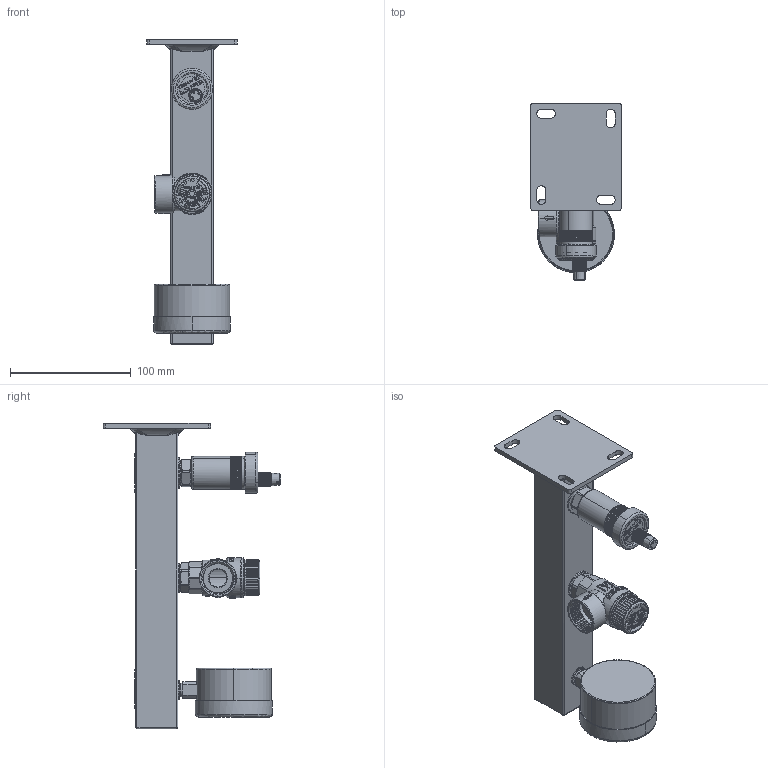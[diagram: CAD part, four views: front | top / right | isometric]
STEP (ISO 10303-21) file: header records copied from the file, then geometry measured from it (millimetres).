
FILE_DESCRIPTION (( 'STEP AP214' ), '1' );
FILE_NAME ('9061000.STEP', '2022-08-05T07:17:25', ( '' ), ( '' ), 'SwSTEP 2.0', 'SolidWorks 2022', '' );
FILE_SCHEMA (( 'AUTOMOTIVE_DESIGN' ));
Length unit declared in the file: millimetre
Products named in the file (18): 801 014 1780_O-Ring  _X_F814x1.78 mm EPDM; manometr; 9061000; 5002 - 12x34 - 10005350; BSS_Korpus; 05 00 250320_Ventilgeh_X_E4use MV G3_8ixR1_2a SW22x20_ Ms; 05 00 280011_Deckel Schnellentl_X_FCfter; 801 024 2002_O-Ring  _X_F824.00x2.00mm EPDM; Schnellentl_X_FCfter MS G3_8 Aquastop_05 00 21 13; 30005562; _X_DCberwurfmutter M32x1,5_05 00 210014; 30915205; 77219_air-vent_MV-R12; 05 00 280034_Schraubkappe SE Aquastop; 760 000 0169_Quellscheibe _X_F87x_X_F82,5x0,5; DOMS; 90005350; Geh_X_E4use Schnellentl_X_FCfter_05 00 210013
Assembly tree (25 placements, depth 4):
  9061000
    BSS_Korpus
    77219_air-vent_MV-R12
      Schnellentl_X_FCfter MS G3_8 Aquastop_05 00 21 13
        801 024 2002_O-Ring  _X_F824.00x2.00mm EPDM
        _X_DCberwurfmutter M32x1,5_05 00 210014
        801 014 1780_O-Ring  _X_F814x1.78 mm EPDM
        760 000 0169_Quellscheibe _X_F87x_X_F82,5x0,5  x9
        Geh_X_E4use Schnellentl_X_FCfter_05 00 210013
        05 00 280011_Deckel Schnellentl_X_FCfter
        05 00 280034_Schraubkappe SE Aquastop
      05 00 250320_Ventilgeh_X_E4use MV G3_8ixR1_2a SW22x20_ Ms
    5002 - 12x34 - 10005350
      90005350
        30005562
        30915205
    DOMS
    manometr
Bounding box: 75 x 147.3 x 253 mm (x, y, z)
Volume: 350341.7 mm3; surface area: 111385.2 mm2
Topology: 20 solids, 21 shells, 3268 faces, 8646 edges, 5673 vertices
Faces by surface type: plane 1179, cylinder 949, bspline 750, cone 358, torus 28, sphere 4
Entity records: 157459 total; most frequent: CARTESIAN_POINT 58452, ORIENTED_EDGE 16022, DIRECTION 11218, EDGE_CURVE 8011, VERTEX_POINT 5257, AXIS2_PLACEMENT_3D 3865, VECTOR 3488, LINE 3488
